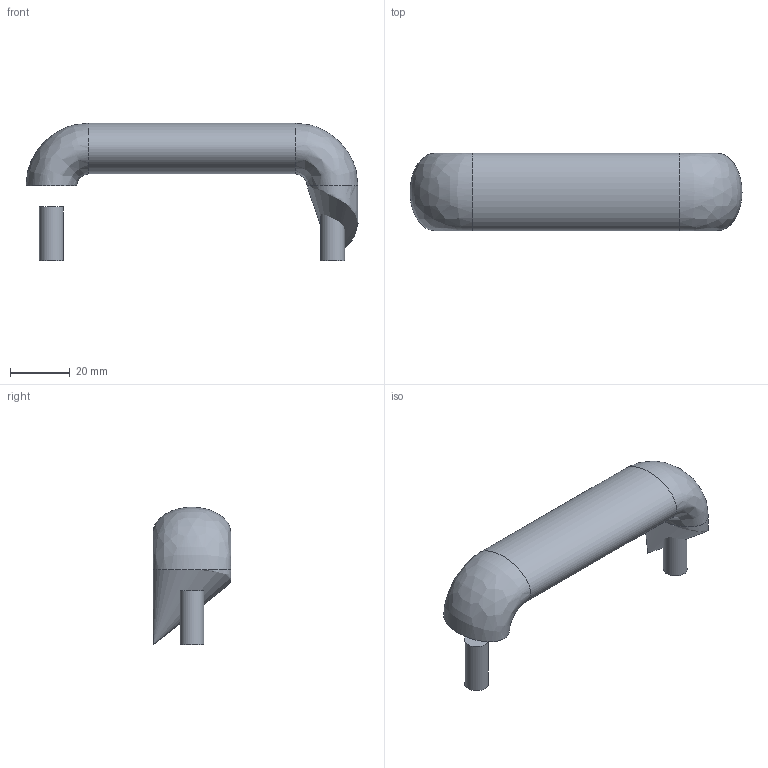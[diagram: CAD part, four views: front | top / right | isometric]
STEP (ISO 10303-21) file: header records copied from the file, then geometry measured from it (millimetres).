
FILE_DESCRIPTION( ('This file contains a STEP AP42 implementation' ,'as created by ZW3D STEP Interface translator.') ,'2;1' );
FILE_NAME( 'U.50_120.stp' ,'26 423. 95715', (''), ('ZWCAD Software Co.'), 'Version 1.0', 'ZW3D to STEP translator', '' );
FILE_SCHEMA(('AP242_MANAGED_MODEL_BASED_3D_ENGINEERING_MIM_LF { 1 0 10303 442 1 1 4 }'));
Length unit declared in the file: millimetre
Products named in the file (1): 0
Bounding box: 110.98 x 26 x 45.98 mm (x, y, z)
Volume: 45589.3 mm3; surface area: 11766.2 mm2
Topology: 5 solids, 5 shells, 25 faces, 38 edges, 23 vertices
Faces by surface type: plane 8, cylinder 8, bspline 5, cone 4
Full cylindrical faces by diameter (mm): 5 x4, 8 x4
Entity records: 711 total; most frequent: CARTESIAN_POINT 224, DIRECTION 97, ORIENTED_EDGE 78, AXIS2_PLACEMENT_3D 41, EDGE_CURVE 39, EDGE_LOOP 29, FACE_OUTER_BOUND 25, ADVANCED_FACE 25
